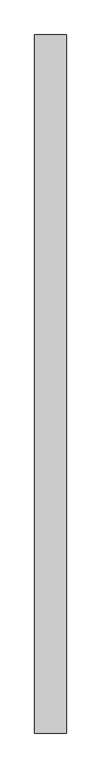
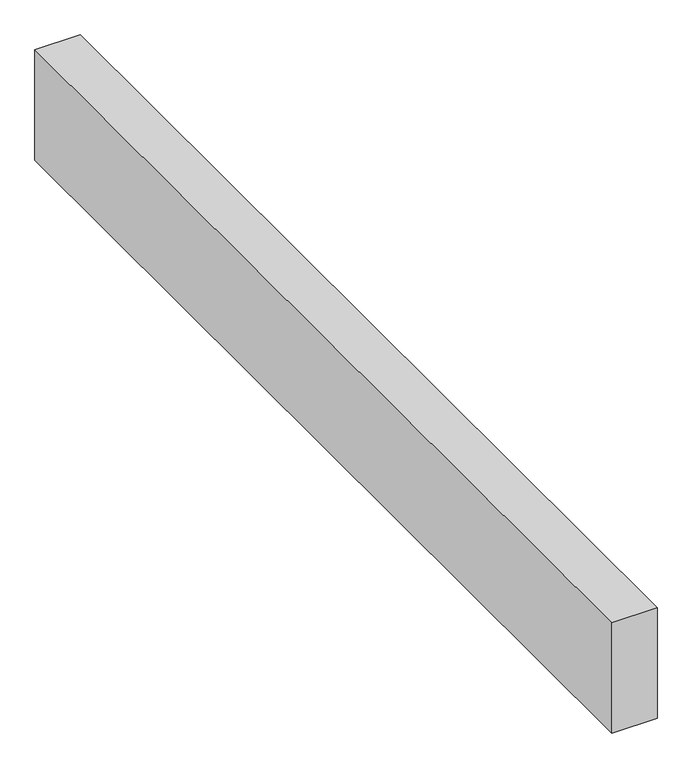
"""IFC4 building model written with IfcOpenShell, lengths in millimetres: beam geometry, 梁下部増打1 : 梁下部増打1."""

from ifc_helpers import new_model, si_unit, frame, origin, place, context, project, spatial, polyline, outline, extrude, source, transform, mapped, element, save


def beam_85b25be6(model_context):
    return source(origin(), model_context, "Body", "SweptSolid", [
        extrude(outline(polyline([(6808.5182855, 16225.0), (6808.5182855, 23950.0), (7158.5182855, 23950.0), (7158.5182855, 16225.0), (6808.5182855, 16225.0)])), frame((0.0, 0.0, -1750.0), z_axis=(0.0, 0.0, 1.0), x_axis=(1.0, 0.0, 0.0)), (0.0, 0.0, 1.0), 900.0),
    ])


if __name__ == "__main__":
    model = new_model("IFC4")
    model_context = context("Model", 3, world=origin())
    ifc_project = project(units=[si_unit("LENGTHUNIT", "METRE", prefix="MILLI")], contexts=[model_context])
    site = spatial("IfcSite", under=ifc_project)
    building = spatial("IfcBuilding", under=site)
    placement = place(None, origin())
    beam_shape = beam_85b25be6(model_context)
    element("IfcBeam", 1, ObjectType="梁下部増打1 : 梁下部増打1", at=placement, inside=building, context=model_context, shape_type="MappedRepresentation", body=[
        mapped(beam_shape, transform((0.0, 0.0, 0.0), x_axis=(1.0, 0.0, 0.0), y_axis=(0.0, 1.0, 0.0), z_axis=(0.0, 0.0, 1.0))),
    ])
    save(model, "model.ifc")
